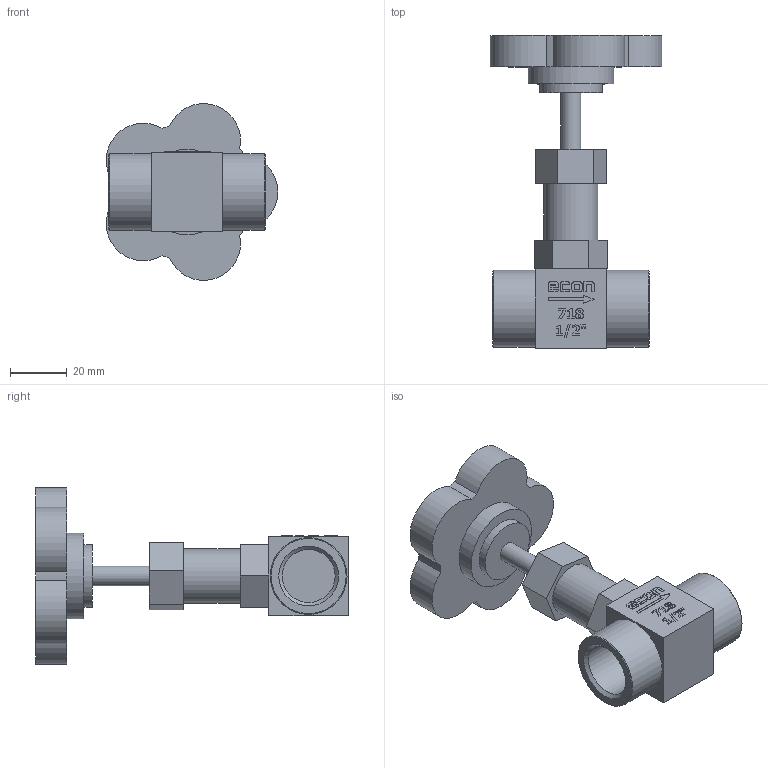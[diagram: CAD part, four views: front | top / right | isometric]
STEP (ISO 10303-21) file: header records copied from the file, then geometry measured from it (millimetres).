
FILE_DESCRIPTION(/* description */ ('Eriks item no: 11811608'),/* implementation_level */ '2;1');
FILE_NAME(/* name */ 'L:\DATA\ENG\Inventor\Econ 3D modellen\naaldafsluiter\718\718-015-PN100.stp',/* time_stamp */ '2024-02-12T09:13:19+01:00',/* author */ ('roger.thijssen'),/* organization */ (''),/* preprocessor_version */ 'ST-DEVELOPER v18',/* originating_system */ 'Autodesk Inventor 2020',/* authorisation */ '');
FILE_SCHEMA (('CONFIG_CONTROL_DESIGN'));
Length unit declared in the file: millimetre
Products named in the file (1): Needle valve, 718-015-PN100
Bounding box: 60.32 x 110 x 62.1 mm (x, y, z)
Volume: 69697.9 mm3; surface area: 21166.6 mm2
Topology: 1 solids, 1 shells, 219 faces, 568 edges, 380 vertices
Faces by surface type: plane 147, bspline 36, cylinder 31, cone 5
Full cylindrical faces by diameter (mm): 7 x1, 18.631 x2, 19 x1, 22 x1, 27 x2, 30 x1
Entity records: 7411 total; most frequent: CARTESIAN_POINT 1910, ORIENTED_EDGE 1136, DIRECTION 944, EDGE_CURVE 568, LINE 416, VECTOR 416, VERTEX_POINT 380, AXIS2_PLACEMENT_3D 264
